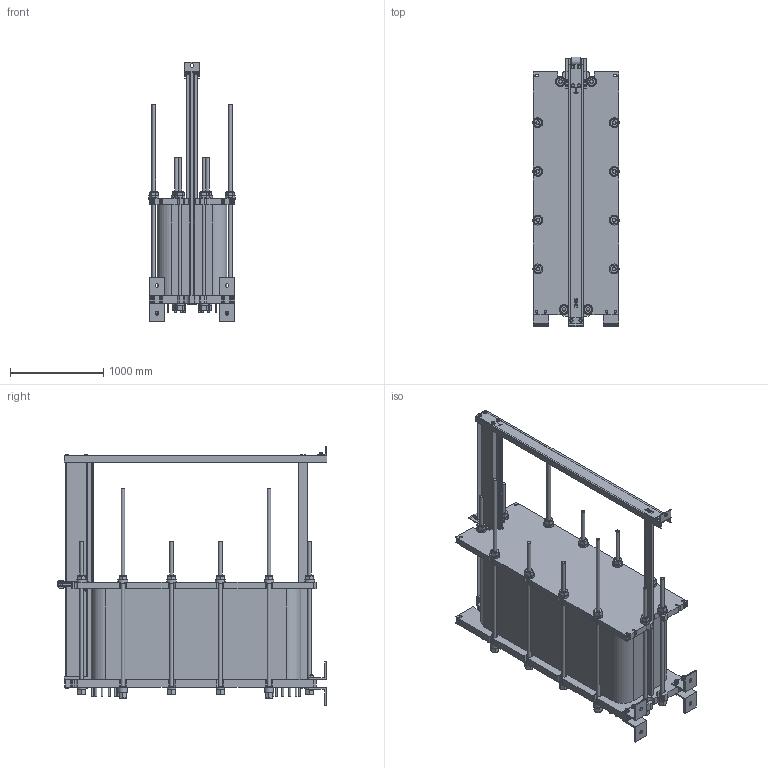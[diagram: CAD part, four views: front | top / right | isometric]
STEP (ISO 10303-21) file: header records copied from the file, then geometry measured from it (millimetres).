
FILE_DESCRIPTION((''),'2;1');
FILE_NAME('C:\temp\MX25_FG_LC2400_7_02_Rev0.stp','2009-09-27T06:16:31',('CNSHFLU'),(''),'Autodesk Inventor 2008','Autodesk Inventor 2008','');
FILE_SCHEMA(('AUTOMOTIVE_DESIGN { 1 2 10303 214 0 1 1 1 }'));
Length unit declared in the file: millimetre
Products named in the file (1): MX25
Bounding box: 925 x 2893.33 x 2785.5 mm (x, y, z)
Volume: 1857245092.3 mm3; surface area: 26653117 mm2
Topology: 1 solids, 16 shells, 2811 faces, 6657 edges, 4150 vertices
Faces by surface type: plane 1376, cone 728, cylinder 620, bspline 87
Full cylindrical faces by diameter (mm): 9.45 x4, 12 x12, 13 x10, 14 x2, 18 x4, 20 x63, 21 x13, 22 x5, 24 x20, 25 x8, 26 x4, 30 x2, 34.295 x4, 37 x10, 39 x24, 40 x5, 44 x8, 53 x24, 63 x12, 90 x8, 96 x4, 105 x12, 229 x4, 230 x4
Entity records: 77880 total; most frequent: CARTESIAN_POINT 16725, DIRECTION 12620, ORIENTED_EDGE 12428, EDGE_CURVE 6214, AXIS2_PLACEMENT_3D 4927, VERTEX_POINT 4098, EDGE_LOOP 3552, FACE_OUTER_BOUND 2811
